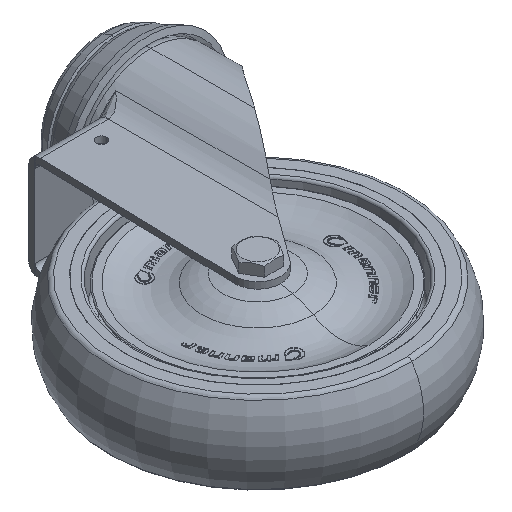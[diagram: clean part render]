
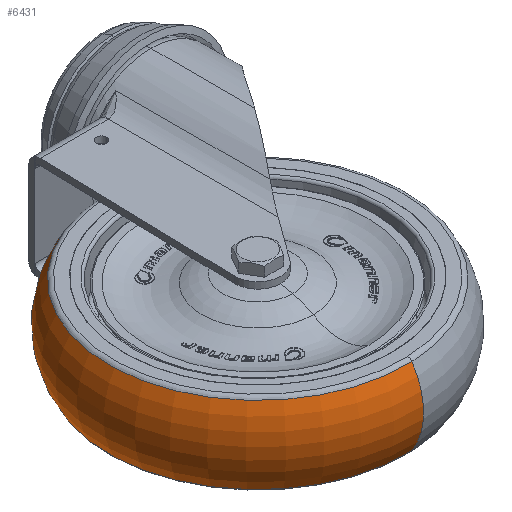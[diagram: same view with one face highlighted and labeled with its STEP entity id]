
A CAD part, isometric view. The second image highlights one B-rep face of the part: STEP entity #6431.
In plain terms, the highlighted toroidal (fillet/blend) face has major radius 34.5 mm and minor radius 28 mm.
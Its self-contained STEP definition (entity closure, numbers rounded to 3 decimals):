
#6429 = ORIENTED_EDGE ( 'NONE', *, *, #6483, .T. ) ;
#6431 = ADVANCED_FACE ( 'NONE', ( #18778 ), #18771, .T. ) ;
#6432 = EDGE_CURVE ( 'NONE', #6490, #6489, #17308, .T. ) ;
#6448 = EDGE_LOOP ( 'NONE', ( #6482, #6429, #6485, #6487 ) ) ;
#6481 = VERTEX_POINT ( 'NONE', #18971 ) ;
#6482 = ORIENTED_EDGE ( 'NONE', *, *, #6432, .T. ) ;
#6483 = EDGE_CURVE ( 'NONE', #6489, #6492, #18969, .T. ) ;
#6484 = EDGE_CURVE ( 'NONE', #6481, #6492, #18881, .T. ) ;
#6485 = ORIENTED_EDGE ( 'NONE', *, *, #6484, .F. ) ;
#6486 = EDGE_CURVE ( 'NONE', #6490, #6481, #18970, .T. ) ;
#6487 = ORIENTED_EDGE ( 'NONE', *, *, #6486, .F. ) ;
#6489 = VERTEX_POINT ( 'NONE', #18967 ) ;
#6490 = VERTEX_POINT ( 'NONE', #18941 ) ;
#6492 = VERTEX_POINT ( 'NONE', #18944 ) ;
#17308 = CIRCLE ( 'NONE', #17792, 58.094 ) ;
#17737 = DIRECTION ( 'NONE',  ( 0., 0., -1. ) ) ;
#17782 = DIRECTION ( 'NONE',  ( 0.037, -0.999, 0. ) ) ;
#17792 = AXIS2_PLACEMENT_3D ( 'NONE', #17822, #17737, #17782 ) ;
#17822 = CARTESIAN_POINT ( 'NONE',  ( 87.01, -110.468, 172.89 ) ) ;
#18697 = CARTESIAN_POINT ( 'NONE',  ( 87.01, -110.468, 157.813 ) ) ;
#18757 = DIRECTION ( 'NONE',  ( 0.037, -0.999, 0. ) ) ;
#18759 = DIRECTION ( 'NONE',  ( 0., 0., -1. ) ) ;
#18771 = TOROIDAL_SURFACE ( 'NONE', #18805, 34.5, 28. ) ;
#18778 = FACE_OUTER_BOUND ( 'NONE', #6448, .T. ) ;
#18805 = AXIS2_PLACEMENT_3D ( 'NONE', #18697, #18759, #18757 ) ;
#18865 = AXIS2_PLACEMENT_3D ( 'NONE', #18965, #18957, #18942 ) ;
#18881 = CIRCLE ( 'NONE', #18954, 58.094 ) ;
#18941 = CARTESIAN_POINT ( 'NONE',  ( 89.144, -168.523, 172.89 ) ) ;
#18942 = DIRECTION ( 'NONE',  ( -0.037, 0.999, 0. ) ) ;
#18944 = CARTESIAN_POINT ( 'NONE',  ( 84.875, -52.413, 142.736 ) ) ;
#18950 = DIRECTION ( 'NONE',  ( 0.037, -0.999, 0. ) ) ;
#18951 = DIRECTION ( 'NONE',  ( 0., 0., -1. ) ) ;
#18953 = CARTESIAN_POINT ( 'NONE',  ( 87.01, -110.468, 142.736 ) ) ;
#18954 = AXIS2_PLACEMENT_3D ( 'NONE', #18953, #18951, #18950 ) ;
#18957 = DIRECTION ( 'NONE',  ( 0.999, 0.037, 0. ) ) ;
#18959 = DIRECTION ( 'NONE',  ( 0.037, -0.999, 0. ) ) ;
#18961 = DIRECTION ( 'NONE',  ( -0.999, -0.037, 0. ) ) ;
#18963 = AXIS2_PLACEMENT_3D ( 'NONE', #18968, #18961, #18959 ) ;
#18965 = CARTESIAN_POINT ( 'NONE',  ( 88.277, -144.944, 157.813 ) ) ;
#18967 = CARTESIAN_POINT ( 'NONE',  ( 84.875, -52.413, 172.89 ) ) ;
#18968 = CARTESIAN_POINT ( 'NONE',  ( 85.742, -75.991, 157.813 ) ) ;
#18969 = CIRCLE ( 'NONE', #18963, 28. ) ;
#18970 = CIRCLE ( 'NONE', #18865, 28. ) ;
#18971 = CARTESIAN_POINT ( 'NONE',  ( 89.144, -168.523, 142.736 ) ) ;
